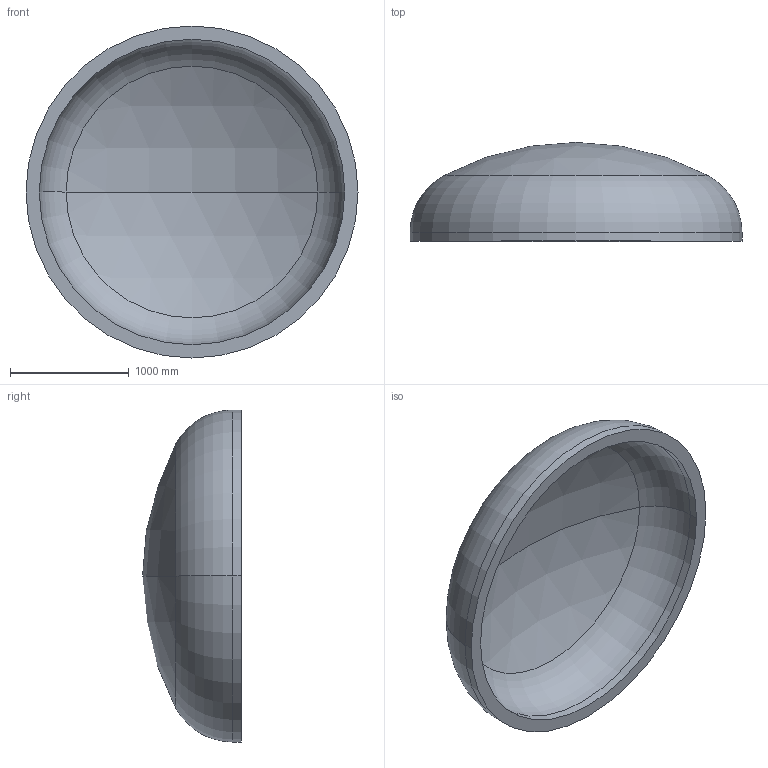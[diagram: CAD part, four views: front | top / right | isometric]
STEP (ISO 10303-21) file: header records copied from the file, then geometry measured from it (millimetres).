
FILE_DESCRIPTION (( 'STEP AP203' ), '1' );
FILE_NAME ('DIN 28013 Korbbogenform_-_Boden DIN 28013 - 2800 x 75 - I - s=112.step', '2016-07-01T17:21:24', ( '' ), ( '' ), 'SwSTEP 2.0', 'SolidWorks 2013', '' );
FILE_SCHEMA (( 'CONFIG_CONTROL_DESIGN' ));
Length unit declared in the file: millimetre
Products named in the file (1): DIN 28013 Korbbogenform_-_Boden DIN 28013 - 2800 x 75 - I - s=112
Bounding box: 2800 x 833.28 x 2800 mm (x, y, z)
Volume: 977325656.7 mm3; surface area: 18424305.8 mm2
Topology: 1 solids, 1 shells, 13 faces, 24 edges, 14 vertices
Faces by surface type: torus 4, cylinder 4, sphere 4, plane 1
Entity records: 407 total; most frequent: DIRECTION 72, CARTESIAN_POINT 52, ORIENTED_EDGE 48, AXIS2_PLACEMENT_3D 34, EDGE_CURVE 24, CIRCLE 20, VERTEX_POINT 14, EDGE_LOOP 14
